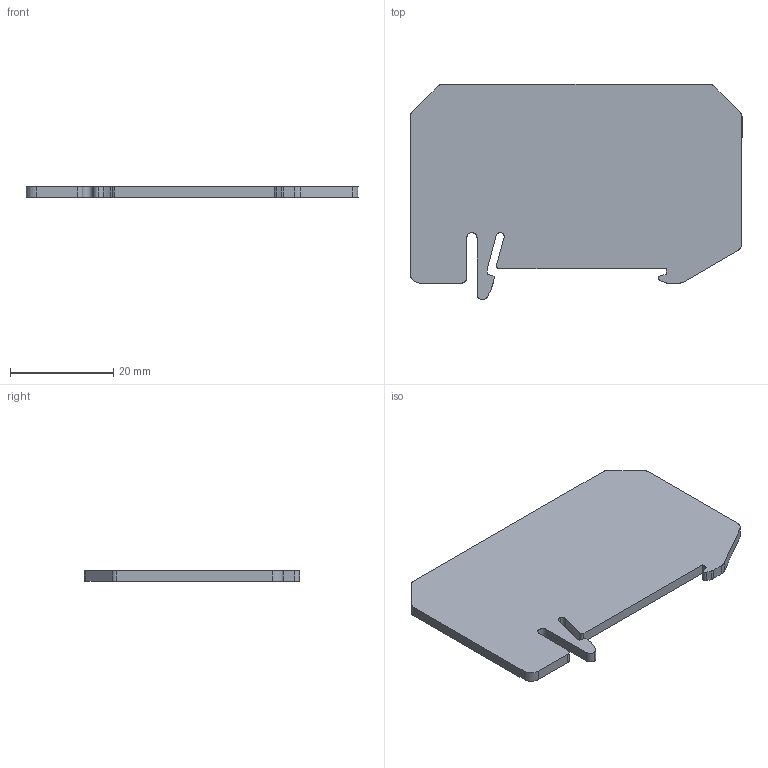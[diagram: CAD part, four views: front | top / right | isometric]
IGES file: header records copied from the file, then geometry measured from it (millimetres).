
Global section: file name: 3206209_atp_qtc-select.igs; native system: OneSpace Designer 3D IGES; preprocessor: 12.01C  26-Mar-2004; date: 20040930.133424; units: millimetre
Bounding box: 64.4 x 41.75 x 2 mm (x, y, z)
Surface area: 5065.5 mm2 (no closed solid volume)
Topology: 0 solids, 0 shells, 40 faces, 328 edges, 328 vertices
Faces by surface type: bspline 40
